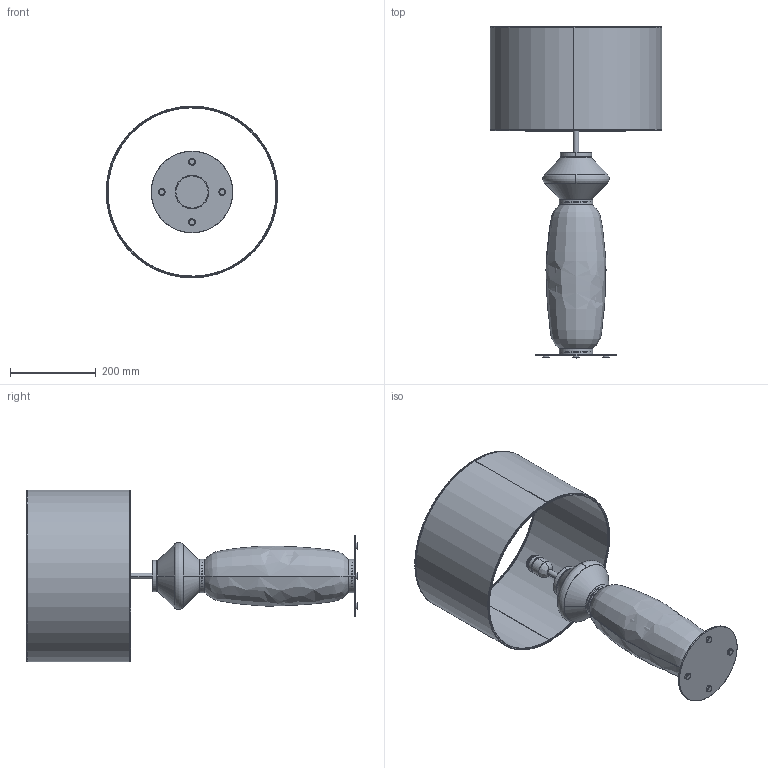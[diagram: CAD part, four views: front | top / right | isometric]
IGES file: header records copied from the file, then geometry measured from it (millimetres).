
Start section: SolidWorks IGES file using analytic representation for surfaces
Global section: file name: C:\Users\Agustin\Desktop\ENERO 2025\2D-3D\2D-3D PAPI_NAC142\PAPI_NAC142.IGS; native system: SolidWorks 2018; preprocessor: SolidWorks 2018; author: Agustin; date: 250314.101020; units: millimetre
Bounding box: 399.89 x 773 x 399.89 mm (x, y, z)
Surface area: 1116255 mm2 (no closed solid volume)
Topology: 0 solids, 0 shells, 186 faces, 4237 edges, 4237 vertices
Faces by surface type: bspline 116, revolution 70
